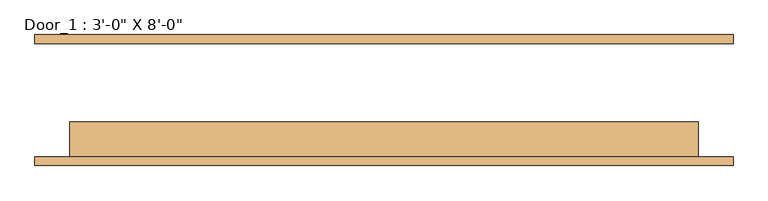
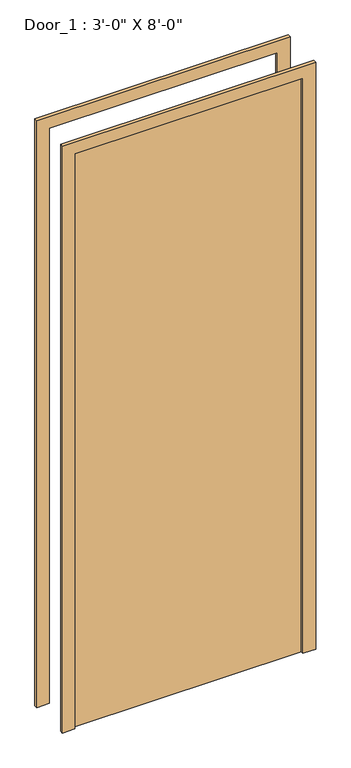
"""IFC4 building model written with IfcOpenShell, lengths in millimetres: door geometry."""

from ifc_helpers import new_model, si_unit, frame, origin, origin_with_axes, place, context, project, spatial, polyline, outline, extrude, source, transform, mapped, element, save


def door_65f2ba71(model_context):
    return source(origin(), model_context, "Body", "SweptSolid", [
        extrude(outline(polyline([(2489.2, -508.0), (0.0, -508.0), (0.0, -457.2), (2438.4, -457.2), (2438.4, 457.2), (0.0, 457.2), (0.0, 508.0), (2489.2, 508.0), (2489.2, -508.0)])), frame((0.0, -95.25, 0.0), z_axis=(0.0, 1.0, 0.0), x_axis=(0.0, 0.0, 1.0)), (0.0, 0.0, 1.0), 12.7),
        extrude(outline(polyline([(2489.2, 508.0), (2489.2, -508.0), (0.0, -508.0), (0.0, -457.2), (2438.4, -457.2), (2438.4, 457.2), (0.0, 457.2), (0.0, 508.0), (2489.2, 508.0)])), frame((0.0, 82.55, 0.0), z_axis=(0.0, 1.0, 0.0), x_axis=(0.0, 0.0, 1.0)), (0.0, 0.0, 1.0), 12.7),
        extrude(outline(polyline([(457.2, -31.75), (457.2, -82.55), (-457.2, -82.55), (-457.2, -31.75), (457.2, -31.75)])), origin_with_axes(), (0.0, 0.0, 1.0), 2438.4),
    ])


if __name__ == "__main__":
    model = new_model("IFC4")
    model_context = context("Model", 3, world=origin())
    ifc_project = project(units=[si_unit("LENGTHUNIT", "METRE", prefix="MILLI")], contexts=[model_context])
    site = spatial("IfcSite", under=ifc_project)
    building = spatial("IfcBuilding", under=site)
    placement = place(None, origin())
    door_shape = door_65f2ba71(model_context)
    element("IfcDoor", 1, ObjectType="Door_1 : 3'-0\" X 8'-0\"", at=placement, inside=building, context=model_context, shape_type="MappedRepresentation", body=[
        mapped(door_shape, transform((0.0, 0.0, 0.0), x_axis=(1.0, 0.0, 0.0), y_axis=(0.0, 1.0, 0.0), z_axis=(0.0, 0.0, 1.0))),
    ])
    save(model, "model.ifc")
